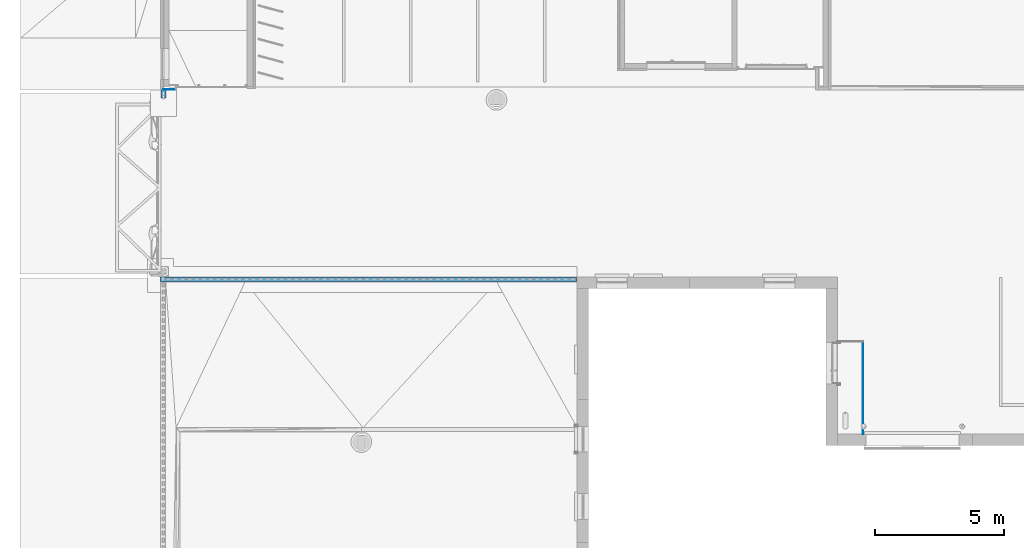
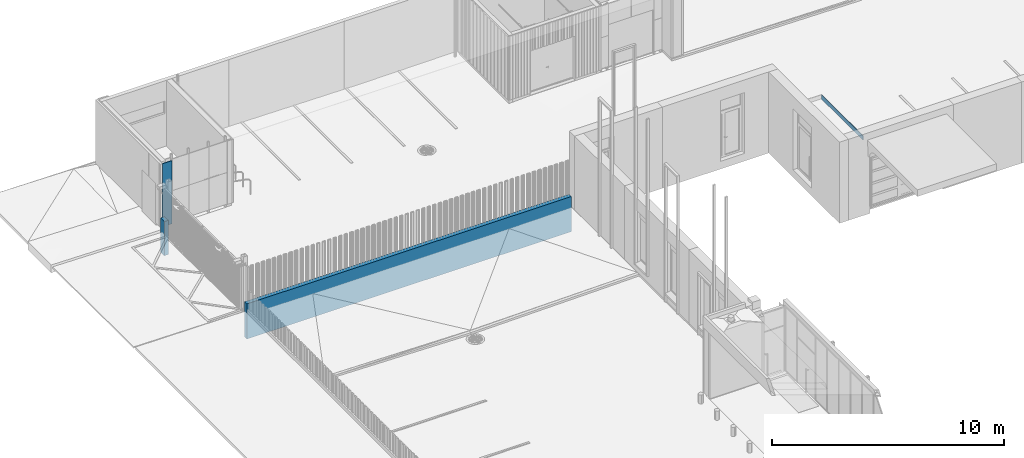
# One storey, part 20 of 77: 4 walls.
"""IFC2X3 building model written with IfcOpenShell, lengths in millimetres."""

from ifc_helpers import new_model, entity, si_unit, converted_unit, derived_unit, direction, frame, frame_2d, origin, place, context, subcontext, project, spatial, rectangle, extrude, material, layer, layer_set, layer_usage, type_object, element, save


model = new_model("IFC2X3")

# Units and contexts
model_context = context("Model", 3, precision=0.01, world=origin(), true_north=direction((6.12303176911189e-17, 1.0)))
body_context = subcontext(model_context, "Body", "Model", "MODEL_VIEW")
ifc_project = project(units=[si_unit("LENGTHUNIT", "METRE", prefix="MILLI"), si_unit("AREAUNIT", "SQUARE_METRE"), si_unit("VOLUMEUNIT", "CUBIC_METRE"), converted_unit("PLANEANGLEUNIT", "DEGREE", entity("IfcRatioMeasure", 0.0174532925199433), si_unit("PLANEANGLEUNIT", "RADIAN"), dimensions=[0, 0, 0, 0, 0, 0, 0]), si_unit("MASSUNIT", "GRAM", prefix="KILO"), derived_unit("MASSDENSITYUNIT", [(si_unit("MASSUNIT", "GRAM", prefix="KILO"), 1), (si_unit("LENGTHUNIT", "METRE"), -3)]), si_unit("TIMEUNIT", "SECOND"), si_unit("FREQUENCYUNIT", "HERTZ"), si_unit("THERMODYNAMICTEMPERATUREUNIT", "DEGREE_CELSIUS"), derived_unit("THERMALTRANSMITTANCEUNIT", [(si_unit("MASSUNIT", "GRAM", prefix="KILO"), 1), (si_unit("THERMODYNAMICTEMPERATUREUNIT", "KELVIN"), -1), (si_unit("TIMEUNIT", "SECOND"), -3)]), derived_unit("VOLUMETRICFLOWRATEUNIT", [(si_unit("LENGTHUNIT", "METRE"), 3), (si_unit("TIMEUNIT", "SECOND"), -1)]), si_unit("ELECTRICCURRENTUNIT", "AMPERE"), si_unit("ELECTRICVOLTAGEUNIT", "VOLT"), si_unit("POWERUNIT", "WATT"), si_unit("FORCEUNIT", "NEWTON", prefix="KILO"), si_unit("ILLUMINANCEUNIT", "LUX"), si_unit("LUMINOUSFLUXUNIT", "LUMEN"), si_unit("LUMINOUSINTENSITYUNIT", "CANDELA"), derived_unit("USERDEFINED", [(si_unit("MASSUNIT", "GRAM", prefix="KILO"), -1), (si_unit("LENGTHUNIT", "METRE"), -2), (si_unit("TIMEUNIT", "SECOND"), 3), (si_unit("LUMINOUSFLUXUNIT", "LUMEN"), 1)]), derived_unit("LINEARVELOCITYUNIT", [(si_unit("LENGTHUNIT", "METRE"), 1), (si_unit("TIMEUNIT", "SECOND"), -1)]), si_unit("PRESSUREUNIT", "PASCAL"), derived_unit("USERDEFINED", [(si_unit("LENGTHUNIT", "METRE"), -2), (si_unit("MASSUNIT", "GRAM", prefix="KILO"), 1), (si_unit("TIMEUNIT", "SECOND"), -2)])], contexts=[model_context])

# Site, building, storey
site_placement = place(None, origin())
site = spatial("IfcSite", under=ifc_project, at=site_placement, Name="Default", CompositionType="ELEMENT")
building_placement = place(site_placement, origin())
building = spatial("IfcBuilding", under=site, at=building_placement, CompositionType="ELEMENT")
storey_placement = place(building_placement, origin())
storey = spatial("IfcBuildingStorey", under=building, at=storey_placement, Name="1. KORRUS", CompositionType="ELEMENT", Elevation=0.0)

# Walls
ifc_material_1 = material(Name="Must-al-komposiitplaat")
ifc_layer_1 = layer(ifc_material_1, 5.0)
ifc_material_2 = material(Name="Metal Stud Layer")
ifc_layer_2 = layer(ifc_material_2, 25.0)
ifc_layer_set_1 = layer_set([ifc_layer_1, ifc_layer_2], Name="Basic Wall:komposiitplaat+karkass25")
ifc_layer_usage_1 = layer_usage(ifc_layer_set_1, "AXIS2", "NEGATIVE", 15.0)
wall_type_1 = type_object("IfcWallType", Name="Basic Wall:komposiitplaat+karkass25", PredefinedType="STANDARD", material=ifc_layer_set_1)
wall_1_placement = place(storey_placement, frame((-16030.0, 35315.0994344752, 50.0), z_axis=(0.0, 0.0, 1.0), x_axis=(-1.0, 0.0, 0.0)))
element("IfcWallStandardCase", 1, at=wall_1_placement, inside=storey, type_object=wall_type_1, material=ifc_layer_usage_1, Name="Basic Wall:komposiitplaat+karkass25", ObjectType="Basic Wall:komposiitplaat+karkass25", context=body_context, shape_type="SweptSolid", body=[
    extrude(rectangle(XDim=470.235186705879, YDim=30.0000000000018, at=frame_2d((235.117593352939, 0.0), x_axis=(-1.0, 0.0))), origin(), (0.0, 0.0, 1.0), 3320.0),
])
ifc_layer_3 = layer(ifc_material_1, 4.0)
ifc_material_3 = material(Name="Õhkvahe- hor roovid")
ifc_layer_4 = layer(ifc_material_3, 18.0)
ifc_layer_set_2 = layer_set([ifc_layer_3, ifc_layer_4], Name="Basic Wall:varikatuse serv20+4")
ifc_layer_usage_2 = layer_usage(ifc_layer_set_2, "AXIS2", "NEGATIVE", 11.0)
wall_type_2 = type_object("IfcWallType", Name="Basic Wall:varikatuse serv20+4", PredefinedType="STANDARD", material=ifc_layer_set_2)
wall_2_placement = place(storey_placement, frame((10639.0, 25537.9958752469, 3200.0), z_axis=(0.0, 0.0, 1.0), x_axis=(0.0, -1.0, 0.0)))
element("IfcWallStandardCase", 2, at=wall_2_placement, inside=storey, type_object=wall_type_2, material=ifc_layer_usage_2, Name="Basic Wall:varikatuse serv20+4", ObjectType="Basic Wall:varikatuse serv20+4", context=body_context, shape_type="SweptSolid", body=[
    extrude(rectangle(XDim=3587.94409453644, YDim=21.9999999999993, at=frame_2d((1793.97204726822, -1.95399252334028e-14), x_axis=(-1.0, 0.0))), origin(), (0.0, 0.0, 1.0), 225.0),
])
ifc_material_4 = material(Name="aia r/b sokkel")
ifc_layer_5 = layer(ifc_material_4, 200.0)
ifc_layer_set_3 = layer_set([ifc_layer_5], Name="Basic Wall:Aed")
ifc_layer_usage_3 = layer_usage(ifc_layer_set_3, "AXIS2", "POSITIVE", -100.0)
wall_type_3 = type_object("IfcWallType", Name="Basic Wall:Aed", PredefinedType="STANDARD", material=ifc_layer_set_3)
wall_3_placement = place(storey_placement, frame((-470.0, 27950.0, -1300.0), z_axis=(0.0, 0.0, 1.0), x_axis=(-1.0, 0.0, 0.0)))
element("IfcWallStandardCase", 3, at=wall_3_placement, inside=storey, type_object=wall_type_3, material=ifc_layer_usage_3, Name="Basic Wall:Aed", ObjectType="Basic Wall:Aed", context=body_context, shape_type="SweptSolid", body=[
    extrude(rectangle(XDim=16130.0, YDim=199.999999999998, at=frame_2d((8065.0, 0.0), x_axis=(-1.0, 0.0))), origin(), (0.0, 0.0, 1.0), 1850.0),
])
ifc_layer_usage_4 = layer_usage(ifc_layer_set_3, "AXIS2", "POSITIVE", -100.0)
wall_4_placement = place(storey_placement, frame((-16489.9580254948, 35300.0994344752, -1250.0), z_axis=(0.0, 0.0, 1.0), x_axis=(0.0, -1.0, 0.0)))
element("IfcWallStandardCase", 4, at=wall_4_placement, inside=storey, type_object=wall_type_3, material=ifc_layer_usage_4, Name="Basic Wall:Aed", ObjectType="Basic Wall:Aed", context=body_context, shape_type="SweptSolid", body=[
    extrude(rectangle(XDim=320.005012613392, YDim=200.000000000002, at=frame_2d((160.002506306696, 0.0), x_axis=(-1.0, 0.0))), origin(), (0.0, 0.0, 1.0), 1800.0),
])

save(model, "model.ifc")
